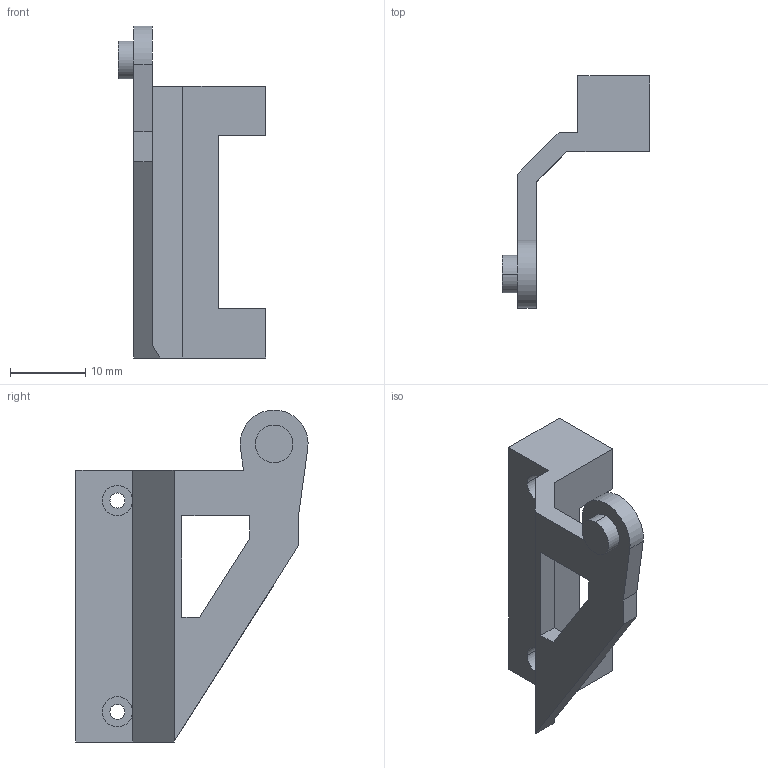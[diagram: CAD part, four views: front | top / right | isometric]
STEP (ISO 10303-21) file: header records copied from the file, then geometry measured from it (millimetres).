
FILE_DESCRIPTION (( 'STEP AP203' ), '1' );
FILE_NAME ('酘旋.ST', '2026-09-16T02:59:05', ( '' ), ( '' ), 'SwSTEP 2.0', 'SolidWorks 2024', '' );
FILE_SCHEMA (( 'CONFIG_CONTROL_DESIGN' ));
Length unit declared in the file: millimetre
Products named in the file (1): 左臂
Bounding box: 19.5 x 30.77 x 44 mm (x, y, z)
Volume: 3472 mm3; surface area: 3243.1 mm2
Topology: 1 solids, 1 shells, 46 faces, 125 edges, 81 vertices
Faces by surface type: plane 35, cylinder 11
Entity records: 1524 total; most frequent: CARTESIAN_POINT 253, ORIENTED_EDGE 250, DIRECTION 241, EDGE_CURVE 125, VECTOR 103, LINE 103, VERTEX_POINT 81, AXIS2_PLACEMENT_3D 69
